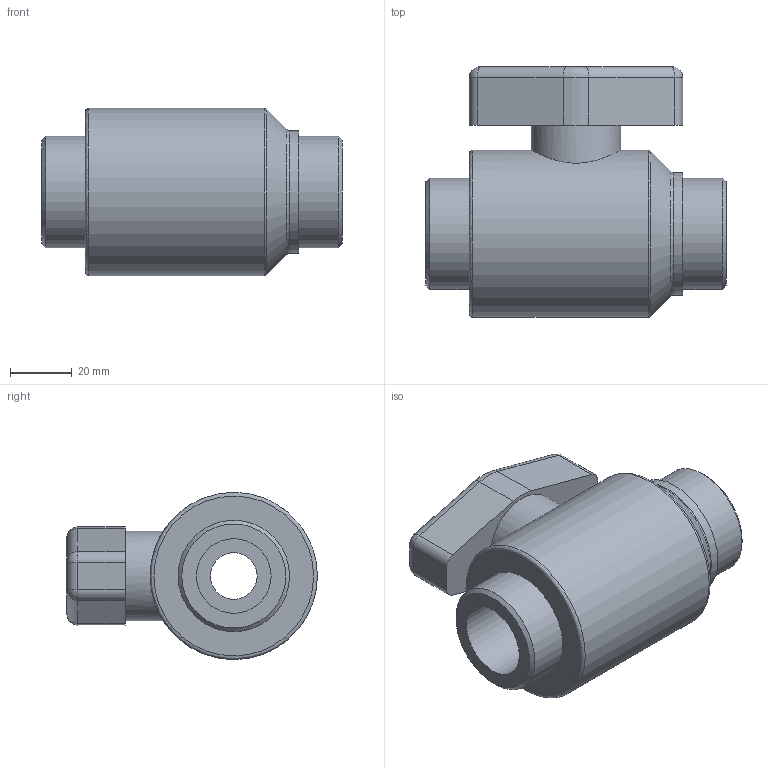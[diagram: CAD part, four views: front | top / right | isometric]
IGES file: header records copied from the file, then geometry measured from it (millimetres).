
Global section: file name: 0370300007_037030F007.ipt; native system: Autodesk Inventor 2015; preprocessor: unknown; author: KIM; date: 20190627.094218; units: millimetre
Bounding box: 97 x 81 x 54 mm (x, y, z)
Volume: 187871.8 mm3; surface area: 29218.4 mm2
Topology: 1 solids, 1 shells, 46 faces, 106 edges, 67 vertices
Faces by surface type: cylinder 17, plane 14, revolution 8, sphere 4, cone 3
Full cylindrical faces by diameter (mm): 28.94 x1, 36 x2, 39.6 x1, 54 x1
